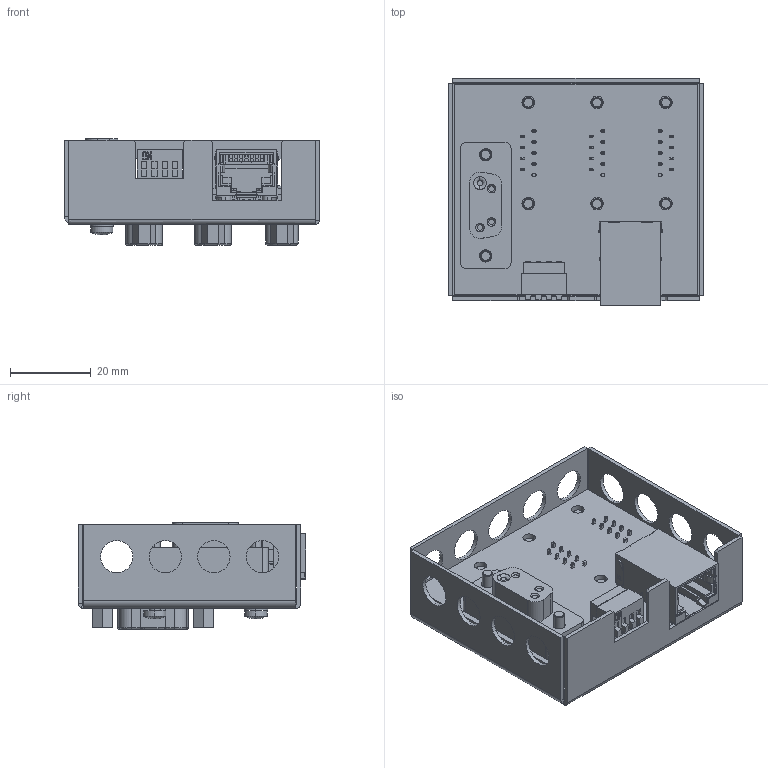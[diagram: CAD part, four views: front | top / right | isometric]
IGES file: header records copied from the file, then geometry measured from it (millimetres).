
Start section:  PTC IGES file: 2009832
Global section: file name: 2009832; native system: Pro/ENGINEER by Parametric Technology Corporation; preprocessor: 2011040; author: smayer; organization: Unknown; date: 20111206.064905; units: millimetre
Bounding box: 63 x 56.2 x 26.43 mm (x, y, z)
Surface area: 29660.6 mm2 (no closed solid volume)
Topology: 0 solids, 0 shells, 3392 faces, 18844 edges, 18832 vertices
Faces by surface type: bspline 2252, revolution 1109, extrusion 31
